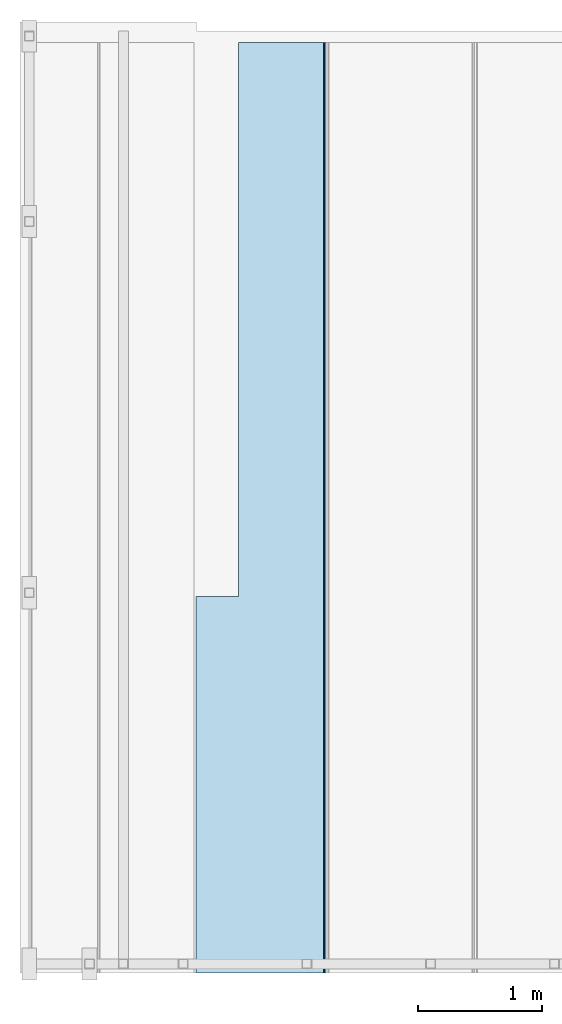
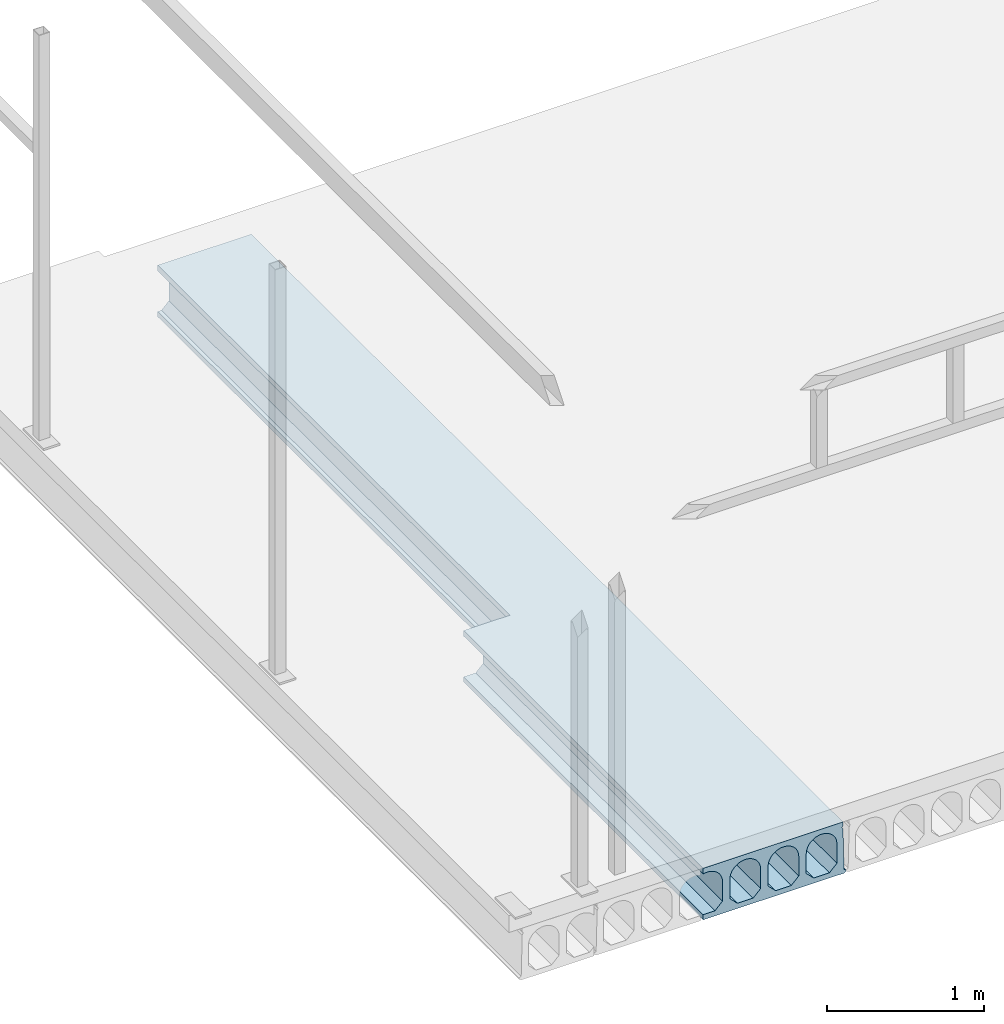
# One storey, part 7 of 20: 1 slab.
"""IFC2X3 building model written with IfcOpenShell, lengths in millimetres."""

from ifc_helpers import new_model, entity, si_unit, converted_unit, derived_unit, direction, frame, origin_with_axes, place, context, subcontext, project, spatial, faceted_brep, type_object, element, save


model = new_model("IFC2X3")

# Units and contexts
model_context = context("Model", 3, precision=0.01, world=frame((0.0, 4.29681676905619e-09, 0.0)), true_north=direction((4.01073788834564e-13, 1.0)))
plan_context = context("Plan", 3, precision=0.01, world=frame((0.0, 4.29681676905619e-09, 0.0)), true_north=direction((4.01073788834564e-13, 1.0)))
body_context = subcontext(model_context, "Body", "Model", "MODEL_VIEW")
ifc_project = project(units=[converted_unit("PLANEANGLEUNIT", "DEGREE", entity("IfcPositiveLengthMeasure", 0.0174532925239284), si_unit("PLANEANGLEUNIT", "RADIAN"), dimensions=[0, 0, 0, 0, 0, 0, 0]), si_unit("AREAUNIT", "SQUARE_METRE"), si_unit("LENGTHUNIT", "METRE", prefix="MILLI"), si_unit("MASSUNIT", "GRAM", prefix="KILO"), si_unit("POWERUNIT", "WATT"), si_unit("PRESSUREUNIT", "PASCAL", prefix="KILO"), si_unit("FORCEUNIT", "NEWTON", prefix="KILO"), si_unit("ELECTRICVOLTAGEUNIT", "VOLT"), si_unit("ELECTRICCURRENTUNIT", "AMPERE"), si_unit("THERMODYNAMICTEMPERATUREUNIT", "DEGREE_CELSIUS"), si_unit("TIMEUNIT", "SECOND"), si_unit("VOLUMEUNIT", "CUBIC_METRE"), derived_unit("LINEARVELOCITYUNIT", [(si_unit("LENGTHUNIT", "METRE"), 1), (si_unit("TIMEUNIT", "SECOND"), -1)]), derived_unit("VOLUMETRICFLOWRATEUNIT", [(si_unit("VOLUMEUNIT", "CUBIC_METRE"), 1), (si_unit("TIMEUNIT", "SECOND"), -1)]), derived_unit("THERMALTRANSMITTANCEUNIT", [(si_unit("POWERUNIT", "WATT"), 1), (si_unit("THERMODYNAMICTEMPERATUREUNIT", "KELVIN"), -1), (si_unit("AREAUNIT", "SQUARE_METRE"), -1)]), derived_unit("SOUNDPRESSUREUNIT", [(si_unit("PRESSUREUNIT", "PASCAL"), 1)])], contexts=[model_context, plan_context])

# Site, building, storey
site_placement = place(None, frame((0.0, -4.29681676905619e-09, 0.0), z_axis=(0.0, 0.0, 1.0), x_axis=(1.0, 0.0, 0.0)))
site = spatial("IfcSite", under=ifc_project, at=site_placement, Name="Gardermoen", CompositionType="ELEMENT")
building_placement = place(site_placement, frame((0.0, 4.29681676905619e-09, 0.0), z_axis=(0.0, 0.0, 1.0), x_axis=(1.0, 0.0, 0.0)))
building = spatial("IfcBuilding", under=site, at=building_placement, Name="TS", CompositionType="ELEMENT")
storey_placement = place(building_placement, origin_with_axes())
storey = spatial("IfcBuildingStorey", under=building, at=storey_placement, Name="D", CompositionType="ELEMENT", Elevation=0.0)

# Slab
slab_type = type_object("IfcSlabType", Name="HD400", PredefinedType="NOTDEFINED")
slab_placement = place(storey_placement, frame((596799.999766, 396739.995625, 203600.0), z_axis=(0.0, 0.0, 1.0), x_axis=(0.0, 1.0, 0.0)))
element("IfcSlab", 1, at=slab_placement, inside=storey, type_object=slab_type, Name="HULLDEKKE", ObjectType="HD400", PredefinedType="FLOOR", context=body_context, shape_type="Brep", body=[
    faceted_brep([(4040.0, 110.0, -160.0), (4040.0, 110.0, -200.0), (8520.0, 110.0, -200.0), (8520.0, 110.0, -160.0), (996.504375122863, 450.0, -160.0), (996.504375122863, 450.0, -200.0), (4040.0, 450.0, -200.0), (4040.0, 450.0, -160.0), (996.504375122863, 450.0, 200.0), (996.504375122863, 450.0, 155.848115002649), (4040.0, 450.0, 155.848115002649), (4040.0, 450.0, 200.0), (4040.0, 447.617117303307, 156.55752991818), (4040.0, 438.516891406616, 158.465646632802), (4040.0, 429.290176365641, 159.615755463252), (4040.0, 420.0, 160.0), (4040.0, 410.709823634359, 159.615755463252), (4040.0, 401.483108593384, 158.465646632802), (4040.0, 392.382882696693, 156.55752991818), (4040.0, 383.471309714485, 153.904439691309), (4040.0, 374.809264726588, 150.524499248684), (4040.0, 366.455918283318, 146.440797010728), (4040.0, 358.468332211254, 141.681228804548), (4040.0, 350.901069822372, 136.278307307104), (4040.0, 343.805823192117, 130.268939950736), (4040.0, 337.231060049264, 123.694176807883), (4040.0, 331.221692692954, 116.598930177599), (4040.0, 325.818771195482, 109.031667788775), (4040.0, 321.059202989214, 101.044081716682), (4040.0, 316.975500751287, 92.6907352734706), (4040.0, 313.595560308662, 84.028690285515), (4040.0, 310.942470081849, 75.1171173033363), (4040.0, 309.034353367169, 66.0168914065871), (4040.0, 307.884244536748, 56.7901763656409), (4040.0, 307.5, 47.5), (4040.0, 307.5, -105.0), (4040.0, 362.5, -160.0), (4040.0, 197.5, -160.0), (4040.0, 252.5, -105.0), (4040.0, 252.5, 47.5), (4040.0, 252.115755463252, 56.7901763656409), (4040.0, 250.965646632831, 66.0168914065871), (4040.0, 249.057529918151, 75.1171173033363), (4040.0, 246.404439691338, 84.028690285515), (4040.0, 243.024499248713, 92.6907352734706), (4040.0, 238.940797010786, 101.044081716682), (4040.0, 234.181228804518, 109.031667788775), (4040.0, 228.778307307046, 116.598930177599), (4040.0, 222.768939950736, 123.694176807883), (4040.0, 216.194176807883, 130.268939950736), (4040.0, 209.098930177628, 136.278307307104), (4040.0, 201.531667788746, 141.681228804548), (4040.0, 193.544081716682, 146.440797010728), (4040.0, 185.190735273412, 150.524499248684), (4040.0, 176.528690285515, 153.904439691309), (4040.0, 167.617117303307, 156.55752991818), (4040.0, 158.516891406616, 158.465646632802), (4040.0, 149.290176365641, 159.615755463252), (4040.0, 140.0, 160.0), (4040.0, 130.709823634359, 159.615755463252), (4040.0, 121.483108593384, 158.465646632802), (4040.0, 112.382882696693, 156.55752991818), (4040.0, 110.0, 155.848115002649), (4040.0, 110.0, 200.0), (8520.0, 110.0, 155.848115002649), (8519.9921875, 110.0, 200.0), (996.504375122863, 447.617117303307, 156.55752991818), (996.504375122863, 438.516891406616, 158.465646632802), (996.504375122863, 429.290176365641, 159.615755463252), (996.504375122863, 420.0, 160.0), (996.504375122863, 410.709823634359, 159.615755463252), (996.504375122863, 401.483108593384, 158.465646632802), (996.504375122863, 392.382882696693, 156.55752991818), (996.504375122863, 383.471309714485, 153.904439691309), (996.504375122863, 374.809264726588, 150.524499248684), (996.504375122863, 366.455918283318, 146.440797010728), (996.504375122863, 358.468332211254, 141.681228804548), (996.504375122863, 350.901069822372, 136.278307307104), (996.504375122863, 343.805823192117, 130.268939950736), (996.504375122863, 337.231060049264, 123.694176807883), (996.504375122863, 331.221692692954, 116.598930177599), (996.504375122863, 325.818771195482, 109.031667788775), (996.504375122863, 321.059202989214, 101.044081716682), (996.504375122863, 316.975500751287, 92.6907352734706), (996.504375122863, 313.595560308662, 84.028690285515), (996.504375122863, 310.942470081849, 75.1171173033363), (996.504375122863, 309.034353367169, 66.0168914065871), (996.504375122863, 307.884244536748, 56.7901763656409), (996.504375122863, 307.5, 47.5), (996.504375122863, 307.5, -105.0), (996.504375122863, 362.5, -160.0), (996.504375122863, -583.380004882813, -200.0), (8520.0, -583.380004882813, -200.0), (996.504375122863, -600.0, -190.0), (8520.0, -600.0, -190.0), (996.504375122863, -600.0, -180.0), (8520.0, -600.0, -180.0), (996.504375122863, -585.0, -170.0), (8520.0, -585.0, -170.0), (996.504375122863, -577.5, 145.0), (8520.0, -577.5, 145.0), (996.504375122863, -570.0, 160.0), (8520.0, -570.0, 160.0), (996.504375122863, -577.5, 175.0), (8520.0, -577.5, 175.0), (996.504375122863, -577.5, 200.0), (8520.0, -577.5, 200.0), (996.504375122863, -82.5, -160.0), (996.504375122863, -27.5, -105.0), (8520.0, -27.5, -105.0), (8520.0, -82.5, -160.0), (996.504375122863, -27.5, 47.5), (8520.0, -27.5, 47.5), (996.504375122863, -27.8842445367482, 56.7901763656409), (8520.0, -27.8842445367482, 56.7901763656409), (996.504375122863, -29.0343533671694, 66.0168914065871), (8520.0, -29.0343533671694, 66.0168914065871), (996.504375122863, -30.942470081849, 75.1171173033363), (8520.0, -30.942470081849, 75.1171173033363), (996.504375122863, -33.5955603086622, 84.028690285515), (8520.0, -33.5955603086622, 84.028690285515), (996.504375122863, -36.9755007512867, 92.6907352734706), (8520.0, -36.9755007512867, 92.6907352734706), (996.504375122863, -41.0592029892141, 101.044081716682), (8520.0, -41.0592029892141, 101.044081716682), (996.504375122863, -45.8187711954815, 109.031667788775), (8520.0, -45.8187711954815, 109.031667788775), (996.504375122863, -51.2216926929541, 116.598930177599), (8520.0, -51.2216926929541, 116.598930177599), (996.504375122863, -57.2310600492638, 123.694176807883), (8520.0, -57.2310600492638, 123.694176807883), (996.504375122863, -63.8058231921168, 130.268939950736), (8520.0, -63.8058231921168, 130.268939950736), (996.504375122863, -70.9010698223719, 136.278307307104), (8520.0, -70.9010698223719, 136.278307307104), (996.504375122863, -78.4683322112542, 141.681228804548), (8520.0, -78.4683322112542, 141.681228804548), (996.504375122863, -86.4559182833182, 146.440797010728), (8520.0, -86.4559182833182, 146.440797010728), (996.504375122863, -94.8092647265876, 150.524499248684), (8520.0, -94.8092647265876, 150.524499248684), (996.504375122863, -103.471309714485, 153.904439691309), (8520.0, -103.471309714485, 153.904439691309), (996.504375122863, -112.382882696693, 156.55752991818), (8520.0, -112.382882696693, 156.55752991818), (996.504375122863, -121.483108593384, 158.465646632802), (8520.0, -121.483108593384, 158.465646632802), (996.504375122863, -130.709823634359, 159.615755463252), (8520.0, -130.709823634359, 159.615755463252), (996.504375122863, -140.0, 160.0), (8520.0, -140.0, 160.0), (996.504375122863, -149.290176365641, 159.615755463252), (8520.0, -149.290176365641, 159.615755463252), (996.504375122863, -158.516891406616, 158.465646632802), (8520.0, -158.516891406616, 158.465646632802), (996.504375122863, -167.617117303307, 156.55752991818), (8520.0, -167.617117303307, 156.55752991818), (996.504375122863, -176.528690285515, 153.904439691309), (8520.0, -176.528690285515, 153.904439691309), (996.504375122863, -185.190735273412, 150.524499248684), (8520.0, -185.190735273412, 150.524499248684), (996.504375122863, -193.544081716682, 146.440797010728), (8520.0, -193.544081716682, 146.440797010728), (996.504375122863, -201.531667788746, 141.681228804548), (8520.0, -201.531667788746, 141.681228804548), (996.504375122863, -209.098930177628, 136.278307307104), (8520.0, -209.098930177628, 136.278307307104), (996.504375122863, -216.194176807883, 130.268939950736), (8520.0, -216.194176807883, 130.268939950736), (996.504375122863, -222.768939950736, 123.694176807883), (8520.0, -222.768939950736, 123.694176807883), (996.504375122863, -228.778307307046, 116.598930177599), (8520.0, -228.778307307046, 116.598930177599), (996.504375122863, -234.181228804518, 109.031667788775), (8520.0, -234.181228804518, 109.031667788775), (996.504375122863, -238.940797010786, 101.044081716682), (8520.0, -238.940797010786, 101.044081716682), (996.504375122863, -243.024499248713, 92.6907352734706), (8520.0, -243.024499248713, 92.6907352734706), (996.504375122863, -246.404439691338, 84.028690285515), (8520.0, -246.404439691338, 84.028690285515), (996.504375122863, -249.057529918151, 75.1171173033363), (8520.0, -249.057529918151, 75.1171173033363), (996.504375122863, -250.965646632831, 66.0168914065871), (8520.0, -250.965646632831, 66.0168914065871), (996.504375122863, -252.115755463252, 56.7901763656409), (8520.0, -252.115755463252, 56.7901763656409), (996.504375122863, -252.5, 47.5), (8520.0, -252.5, 47.5), (996.504375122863, -252.5, -105.0), (8520.0, -252.5, -105.0), (996.504375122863, -197.5, -160.0), (8520.0, -197.5, -160.0), (996.504375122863, 197.5, -160.0), (996.504375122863, 252.5, -105.0), (996.504375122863, 252.5, 47.5), (996.504375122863, 252.115755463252, 56.7901763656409), (996.504375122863, 250.965646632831, 66.0168914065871), (996.504375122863, 249.057529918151, 75.1171173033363), (996.504375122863, 246.404439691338, 84.028690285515), (996.504375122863, 243.024499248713, 92.6907352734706), (996.504375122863, 238.940797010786, 101.044081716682), (996.504375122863, 234.181228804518, 109.031667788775), (996.504375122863, 228.778307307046, 116.598930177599), (996.504375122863, 222.768939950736, 123.694176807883), (996.504375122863, 216.194176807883, 130.268939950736), (996.504375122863, 209.098930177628, 136.278307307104), (996.504375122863, 201.531667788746, 141.681228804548), (996.504375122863, 193.544081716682, 146.440797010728), (996.504375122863, 185.190735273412, 150.524499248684), (996.504375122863, 176.528690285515, 153.904439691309), (996.504375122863, 167.617117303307, 156.55752991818), (996.504375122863, 158.516891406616, 158.465646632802), (996.504375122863, 149.290176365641, 159.615755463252), (996.504375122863, 140.0, 160.0), (996.504375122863, 130.709823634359, 159.615755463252), (996.504375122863, 121.483108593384, 158.465646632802), (996.504375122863, 112.382882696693, 156.55752991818), (996.504375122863, 103.471309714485, 153.904439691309), (8520.0, 103.471309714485, 153.904439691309), (996.504375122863, 94.8092647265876, 150.524499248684), (8520.0, 94.8092647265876, 150.524499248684), (996.504375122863, 86.4559182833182, 146.440797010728), (8520.0, 86.4559182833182, 146.440797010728), (996.504375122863, 78.4683322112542, 141.681228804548), (8520.0, 78.4683322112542, 141.681228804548), (996.504375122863, 70.9010698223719, 136.278307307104), (8520.0, 70.9010698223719, 136.278307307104), (996.504375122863, 63.8058231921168, 130.268939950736), (8520.0, 63.8058231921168, 130.268939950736), (996.504375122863, 57.2310600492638, 123.694176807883), (8520.0, 57.2310600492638, 123.694176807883), (996.504375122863, 51.2216926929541, 116.598930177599), (8520.0, 51.2216926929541, 116.598930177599), (996.504375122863, 45.8187711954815, 109.031667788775), (8520.0, 45.8187711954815, 109.031667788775), (996.504375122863, 41.0592029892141, 101.044081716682), (8520.0, 41.0592029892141, 101.044081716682), (996.504375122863, 36.9755007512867, 92.6907352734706), (8520.0, 36.9755007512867, 92.6907352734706), (996.504375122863, 33.5955603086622, 84.028690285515), (8520.0, 33.5955603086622, 84.028690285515), (996.504375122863, 30.942470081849, 75.1171173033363), (8520.0, 30.942470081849, 75.1171173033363), (996.504375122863, 29.0343533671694, 66.0168914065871), (8520.0, 29.0343533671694, 66.0168914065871), (996.504375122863, 27.8842445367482, 56.7901763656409), (8520.0, 27.8842445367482, 56.7901763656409), (996.504375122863, 27.5, 47.5), (8520.0, 27.5, 47.5), (996.504375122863, 27.5, -105.0), (8520.0, 27.5, -105.0), (996.504375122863, 82.5, -160.0), (8520.0, 82.5, -160.0), (996.504375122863, -362.5, -160.0), (996.504375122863, -307.5, -105.0), (8520.0, -307.5, -105.0), (8520.0, -362.5, -160.0), (996.504375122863, -307.5, 47.5), (8520.0, -307.5, 47.5), (996.504375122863, -307.884244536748, 56.7901763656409), (8520.0, -307.884244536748, 56.7901763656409), (996.504375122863, -309.034353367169, 66.0168914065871), (8520.0, -309.034353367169, 66.0168914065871), (996.504375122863, -310.942470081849, 75.1171173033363), (8520.0, -310.942470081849, 75.1171173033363), (996.504375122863, -313.595560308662, 84.028690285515), (8520.0, -313.595560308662, 84.028690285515), (996.504375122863, -316.975500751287, 92.6907352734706), (8520.0, -316.975500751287, 92.6907352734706), (996.504375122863, -321.059202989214, 101.044081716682), (8520.0, -321.059202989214, 101.044081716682), (996.504375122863, -325.818771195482, 109.031667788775), (8520.0, -325.818771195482, 109.031667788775), (996.504375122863, -331.221692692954, 116.598930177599), (8520.0, -331.221692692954, 116.598930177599), (996.504375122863, -337.231060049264, 123.694176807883), (8520.0, -337.231060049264, 123.694176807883), (996.504375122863, -343.805823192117, 130.268939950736), (8520.0, -343.805823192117, 130.268939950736), (996.504375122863, -350.901069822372, 136.278307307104), (8520.0, -350.901069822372, 136.278307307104), (996.504375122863, -358.468332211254, 141.681228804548), (8520.0, -358.468332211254, 141.681228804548), (996.504375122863, -366.455918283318, 146.440797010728), (8520.0, -366.455918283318, 146.440797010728), (996.504375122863, -374.809264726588, 150.524499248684), (8520.0, -374.809264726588, 150.524499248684), (996.504375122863, -383.471309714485, 153.904439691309), (8520.0, -383.471309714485, 153.904439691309), (996.504375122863, -392.382882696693, 156.55752991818), (8520.0, -392.382882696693, 156.55752991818), (996.504375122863, -401.483108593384, 158.465646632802), (8520.0, -401.483108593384, 158.465646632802), (996.504375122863, -410.709823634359, 159.615755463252), (8520.0, -410.709823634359, 159.615755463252), (996.504375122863, -420.0, 160.0), (8520.0, -420.0, 160.0), (996.504375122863, -429.290176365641, 159.615755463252), (8520.0, -429.290176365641, 159.615755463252), (996.504375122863, -438.516891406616, 158.465646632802), (8520.0, -438.516891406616, 158.465646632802), (996.504375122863, -447.617117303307, 156.55752991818), (8520.0, -447.617117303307, 156.55752991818), (996.504375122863, -456.528690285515, 153.904439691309), (8520.0, -456.528690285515, 153.904439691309), (996.504375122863, -465.190735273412, 150.524499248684), (8520.0, -465.190735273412, 150.524499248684), (996.504375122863, -473.544081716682, 146.440797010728), (8520.0, -473.544081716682, 146.440797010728), (996.504375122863, -481.531667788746, 141.681228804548), (8520.0, -481.531667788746, 141.681228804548), (996.504375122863, -489.098930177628, 136.278307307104), (8520.0, -489.098930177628, 136.278307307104), (996.504375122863, -496.194176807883, 130.268939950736), (8520.0, -496.194176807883, 130.268939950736), (996.504375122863, -502.768939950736, 123.694176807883), (8520.0, -502.768939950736, 123.694176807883), (996.504375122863, -508.778307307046, 116.598930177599), (8520.0, -508.778307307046, 116.598930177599), (996.504375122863, -514.181228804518, 109.031667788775), (8520.0, -514.181228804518, 109.031667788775), (996.504375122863, -518.940797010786, 101.044081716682), (8520.0, -518.940797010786, 101.044081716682), (996.504375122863, -523.024499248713, 92.6907352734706), (8520.0, -523.024499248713, 92.6907352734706), (996.504375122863, -526.404439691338, 84.028690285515), (8520.0, -526.404439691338, 84.028690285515), (996.504375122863, -529.057529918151, 75.1171173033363), (8520.0, -529.057529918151, 75.1171173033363), (996.504375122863, -530.965646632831, 66.0168914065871), (8520.0, -530.965646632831, 66.0168914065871), (996.504375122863, -532.115755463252, 56.7901763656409), (8520.0, -532.115755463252, 56.7901763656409), (996.504375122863, -532.5, 47.5), (8520.0, -532.5, 47.5), (996.504375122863, -532.5, -105.0), (8520.0, -532.5, -105.0), (996.504375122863, -477.5, -160.0), (8520.0, -477.5, -160.0)], [[[0, 1, 2, 3]], [[4, 5, 6, 7]], [[8, 9, 10, 11]], [[11, 10, 12, 13, 14, 15, 16, 17, 18, 19, 20, 21, 22, 23, 24, 25, 26, 27, 28, 29, 30, 31, 32, 33, 34, 35, 36, 7, 6, 1, 0, 37, 38, 39, 40, 41, 42, 43, 44, 45, 46, 47, 48, 49, 50, 51, 52, 53, 54, 55, 56, 57, 58, 59, 60, 61, 62, 63]], [[63, 62, 64, 65]], [[9, 66, 12, 10]], [[66, 67, 13, 12]], [[67, 68, 14, 13]], [[68, 69, 15, 14]], [[69, 70, 16, 15]], [[70, 71, 17, 16]], [[71, 72, 18, 17]], [[72, 73, 19, 18]], [[73, 74, 20, 19]], [[74, 75, 21, 20]], [[75, 76, 22, 21]], [[76, 77, 23, 22]], [[77, 78, 24, 23]], [[78, 79, 25, 24]], [[79, 80, 26, 25]], [[80, 81, 27, 26]], [[81, 82, 28, 27]], [[82, 83, 29, 28]], [[83, 84, 30, 29]], [[84, 85, 31, 30]], [[85, 86, 32, 31]], [[86, 87, 33, 32]], [[87, 88, 34, 33]], [[88, 89, 35, 34]], [[89, 90, 36, 35]], [[90, 4, 7, 36]], [[5, 91, 92, 2, 1, 6]], [[91, 93, 94, 92]], [[93, 95, 96, 94]], [[95, 97, 98, 96]], [[97, 99, 100, 98]], [[99, 101, 102, 100]], [[101, 103, 104, 102]], [[103, 105, 106, 104]], [[105, 8, 11, 63, 65, 106]], [[107, 108, 109, 110]], [[108, 111, 112, 109]], [[111, 113, 114, 112]], [[113, 115, 116, 114]], [[115, 117, 118, 116]], [[117, 119, 120, 118]], [[119, 121, 122, 120]], [[121, 123, 124, 122]], [[123, 125, 126, 124]], [[125, 127, 128, 126]], [[127, 129, 130, 128]], [[129, 131, 132, 130]], [[131, 133, 134, 132]], [[133, 135, 136, 134]], [[135, 137, 138, 136]], [[137, 139, 140, 138]], [[139, 141, 142, 140]], [[141, 143, 144, 142]], [[143, 145, 146, 144]], [[145, 147, 148, 146]], [[147, 149, 150, 148]], [[149, 151, 152, 150]], [[151, 153, 154, 152]], [[153, 155, 156, 154]], [[155, 157, 158, 156]], [[157, 159, 160, 158]], [[159, 161, 162, 160]], [[161, 163, 164, 162]], [[163, 165, 166, 164]], [[165, 167, 168, 166]], [[167, 169, 170, 168]], [[169, 171, 172, 170]], [[171, 173, 174, 172]], [[173, 175, 176, 174]], [[175, 177, 178, 176]], [[177, 179, 180, 178]], [[179, 181, 182, 180]], [[181, 183, 184, 182]], [[183, 185, 186, 184]], [[185, 187, 188, 186]], [[187, 189, 190, 188]], [[189, 191, 192, 190]], [[191, 107, 110, 192]], [[193, 194, 38, 37]], [[194, 195, 39, 38]], [[195, 196, 40, 39]], [[196, 197, 41, 40]], [[197, 198, 42, 41]], [[198, 199, 43, 42]], [[199, 200, 44, 43]], [[200, 201, 45, 44]], [[201, 202, 46, 45]], [[202, 203, 47, 46]], [[203, 204, 48, 47]], [[204, 205, 49, 48]], [[205, 206, 50, 49]], [[206, 207, 51, 50]], [[207, 208, 52, 51]], [[208, 209, 53, 52]], [[209, 210, 54, 53]], [[210, 211, 55, 54]], [[211, 212, 56, 55]], [[212, 213, 57, 56]], [[213, 214, 58, 57]], [[214, 215, 59, 58]], [[215, 216, 60, 59]], [[216, 217, 61, 60]], [[217, 218, 219, 64, 62, 61]], [[218, 220, 221, 219]], [[220, 222, 223, 221]], [[222, 224, 225, 223]], [[224, 226, 227, 225]], [[226, 228, 229, 227]], [[228, 230, 231, 229]], [[230, 232, 233, 231]], [[232, 234, 235, 233]], [[234, 236, 237, 235]], [[236, 238, 239, 237]], [[238, 240, 241, 239]], [[240, 242, 243, 241]], [[242, 244, 245, 243]], [[244, 246, 247, 245]], [[246, 248, 249, 247]], [[248, 250, 251, 249]], [[250, 252, 253, 251]], [[252, 193, 37, 0, 3, 253]], [[254, 255, 256, 257]], [[255, 258, 259, 256]], [[258, 260, 261, 259]], [[260, 262, 263, 261]], [[262, 264, 265, 263]], [[264, 266, 267, 265]], [[266, 268, 269, 267]], [[268, 270, 271, 269]], [[270, 272, 273, 271]], [[272, 274, 275, 273]], [[274, 276, 277, 275]], [[276, 278, 279, 277]], [[278, 280, 281, 279]], [[280, 282, 283, 281]], [[282, 284, 285, 283]], [[284, 286, 287, 285]], [[286, 288, 289, 287]], [[288, 290, 291, 289]], [[290, 292, 293, 291]], [[292, 294, 295, 293]], [[294, 296, 297, 295]], [[296, 298, 299, 297]], [[298, 300, 301, 299]], [[300, 302, 303, 301]], [[302, 304, 305, 303]], [[304, 306, 307, 305]], [[306, 308, 309, 307]], [[308, 310, 311, 309]], [[310, 312, 313, 311]], [[312, 314, 315, 313]], [[314, 316, 317, 315]], [[316, 318, 319, 317]], [[318, 320, 321, 319]], [[320, 322, 323, 321]], [[322, 324, 325, 323]], [[324, 326, 327, 325]], [[326, 328, 329, 327]], [[328, 330, 331, 329]], [[330, 332, 333, 331]], [[332, 334, 335, 333]], [[334, 336, 337, 335]], [[336, 338, 339, 337]], [[338, 254, 257, 339]], [[65, 64, 219, 221, 223, 225, 227, 229, 231, 233, 235, 237, 239, 241, 243, 245, 247, 249, 251, 253, 3, 2, 92, 94, 96, 98, 100, 102, 104, 106], [339, 257, 256, 259, 261, 263, 265, 267, 269, 271, 273, 275, 277, 279, 281, 283, 285, 287, 289, 291, 293, 295, 297, 299, 301, 303, 305, 307, 309, 311, 313, 315, 317, 319, 321, 323, 325, 327, 329, 331, 333, 335, 337], [192, 110, 109, 112, 114, 116, 118, 120, 122, 124, 126, 128, 130, 132, 134, 136, 138, 140, 142, 144, 146, 148, 150, 152, 154, 156, 158, 160, 162, 164, 166, 168, 170, 172, 174, 176, 178, 180, 182, 184, 186, 188, 190]], [[90, 89, 88, 87, 86, 85, 84, 83, 82, 81, 80, 79, 78, 77, 76, 75, 74, 73, 72, 71, 70, 69, 68, 67, 66, 9, 8, 105, 103, 101, 99, 97, 95, 93, 91, 5, 4], [191, 189, 187, 185, 183, 181, 179, 177, 175, 173, 171, 169, 167, 165, 163, 161, 159, 157, 155, 153, 151, 149, 147, 145, 143, 141, 139, 137, 135, 133, 131, 129, 127, 125, 123, 121, 119, 117, 115, 113, 111, 108, 107], [252, 250, 248, 246, 244, 242, 240, 238, 236, 234, 232, 230, 228, 226, 224, 222, 220, 218, 217, 216, 215, 214, 213, 212, 211, 210, 209, 208, 207, 206, 205, 204, 203, 202, 201, 200, 199, 198, 197, 196, 195, 194, 193], [338, 336, 334, 332, 330, 328, 326, 324, 322, 320, 318, 316, 314, 312, 310, 308, 306, 304, 302, 300, 298, 296, 294, 292, 290, 288, 286, 284, 282, 280, 278, 276, 274, 272, 270, 268, 266, 264, 262, 260, 258, 255, 254]]], orient=[[False], [False], [False], [False], [False], [False], [False], [False], [False], [False], [False], [False], [False], [False], [False], [False], [False], [False], [False], [False], [False], [False], [False], [False], [False], [False], [False], [False], [False], [False], [False], [False], [False], [False], [False], [False], [False], [False], [False], [False], [False], [False], [False], [False], [False], [False], [False], [False], [False], [False], [False], [False], [False], [False], [False], [False], [False], [False], [False], [False], [False], [False], [False], [False], [False], [False], [False], [False], [False], [False], [False], [False], [False], [False], [False], [False], [False], [False], [False], [False], [False], [False], [False], [False], [False], [False], [False], [False], [False], [False], [False], [False], [False], [False], [False], [False], [False], [False], [False], [False], [False], [False], [False], [False], [False], [False], [False], [False], [False], [False], [False], [False], [False], [False], [False], [False], [False], [False], [False], [False], [False], [False], [False], [False], [False], [False], [False], [False], [False], [False], [False], [False], [False], [False], [False], [False], [False], [False], [False], [False], [False], [False], [False], [False], [False], [False], [False], [False], [False], [False], [False], [False], [False], [False], [False], [False], [False], [False], [False], [False], [False], [False], [False], [False], [False], [False], [False], [False], [False], [False, False, False], [False, False, False, False]]),
])

save(model, "model.ifc")
